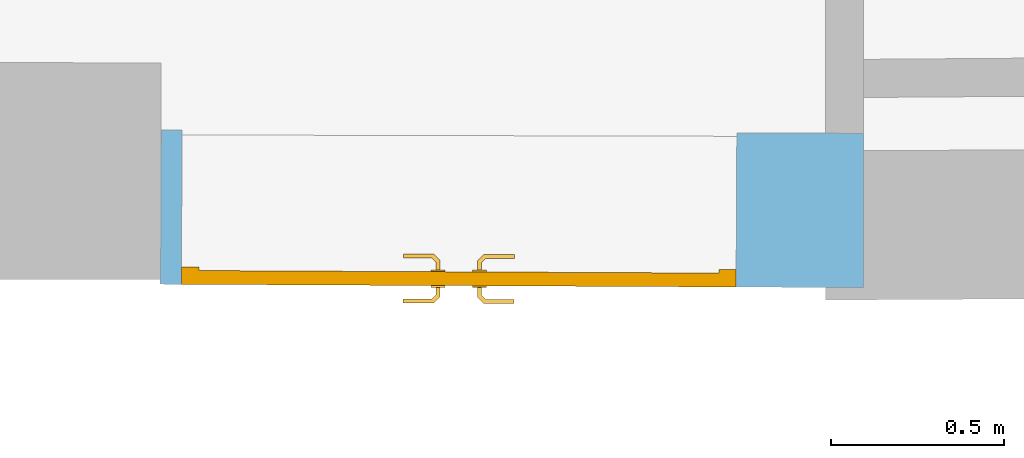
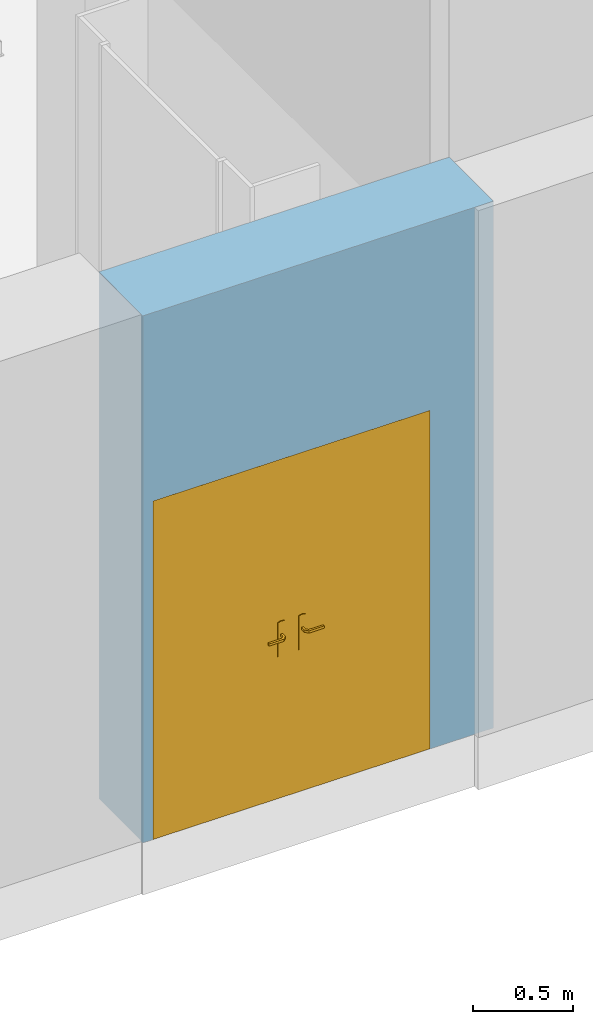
# One storey, part 39 of 128: 1 door, 1 opening, plus 1 element that does not belong to this part.
"""IFC2X3 building model written with IfcOpenShell, lengths in metres."""

from ifc_helpers import new_model, entity, si_unit, converted_unit, derived_unit, direction, frame, frame_2d, origin, place, context, subcontext, project, spatial, polyline, rectangle, outline, extrude, faceted_brep, source, transform, mapped, material, layer, layer_set, layer_usage, type_object, type_shapes, element, fill, save


model = new_model("IFC2X3")

# Units and contexts
model_context = context("Model", 3, precision=1e-05, world=origin(), true_north=direction((6.123031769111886e-17, 1.0)))
body_context = subcontext(model_context, "Body", "Model", "MODEL_VIEW")
ifc_project = project(units=[si_unit("LENGTHUNIT", "METRE"), si_unit("AREAUNIT", "SQUARE_METRE"), converted_unit("PLANEANGLEUNIT", "DEGREE", entity("IfcPlaneAngleMeasure", 0.017453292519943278), si_unit("PLANEANGLEUNIT", "RADIAN"), dimensions=[0, 0, 0, 0, 0, 0, 0]), derived_unit("THERMALTRANSMITTANCEUNIT", [(si_unit("MASSUNIT", "GRAM", prefix="KILO"), 1), (si_unit("THERMODYNAMICTEMPERATUREUNIT", "KELVIN"), -1), (si_unit("TIMEUNIT", "SECOND"), -3)])], contexts=[model_context])

# Site, building, storey
site_placement = place(None, origin())
site = spatial("IfcSite", under=ifc_project, at=site_placement, Name="Default", CompositionType="ELEMENT")
building_placement = place(site_placement, origin())
building = spatial("IfcBuilding", under=site, at=building_placement, CompositionType="ELEMENT")
storey_placement = place(building_placement, origin())
storey = spatial("IfcBuildingStorey", under=building, at=storey_placement, Name="00_RDC CAF", CompositionType="ELEMENT", Elevation=2.4982504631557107e-13)

# Wall, opening, door
ifc_material_1 = material(Name="STR - Beton Mur")
ifc_layer = layer(ifc_material_1, 0.44499999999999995)
ifc_layer_set = layer_set([ifc_layer], Name="Mur de base:M_Ext_Beton_445mm")
ifc_layer_usage = layer_usage(ifc_layer_set, "AXIS2", "NEGATIVE", 0.22249999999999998)
wall_type = type_object("IfcWallType", Name="Mur de base:M_Ext_Beton_445mm", PredefinedType="STANDARD", material=ifc_layer_set)
wall_placement = place(storey_placement, frame((24.91211306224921, 126.21559617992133, 0.0), z_axis=(0.0, 0.0, 1.0), x_axis=(0.9999881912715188, -0.004859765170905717, 0.0)))
wall = element("IfcWallStandardCase", 1, at=wall_placement, inside=storey, type_object=wall_type, material=ifc_layer_usage, Name="Mur de base:M_Ext_Beton_445mm", ObjectType="Mur de base:M_Ext_Beton_445mm", context=body_context, shape_type="SweptSolid", body=[
    extrude(outline(polyline([(0.0, -0.2225000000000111), (1.9184730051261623, -0.22250000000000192), (2.0273677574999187, -0.222500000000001), (2.0254488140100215, 0.17235875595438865), (2.0252051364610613, 0.22249999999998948), (0.0, 0.2224999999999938), (0.0, -0.2225000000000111)])), origin(), (0.0, 0.0, 1.0), 3.2300000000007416),
])
opening_placement = place(wall_placement, frame((1.660000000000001, 0.2225000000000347, 0.0)))
opening = element("IfcOpeningElement", 2, at=opening_placement, cuts=wall, Name="P_Tunnel_Double:P_Int_Double_Pleine_1530x2040mm:1", ObjectType="Opening", context=body_context, shape_type="SweptSolid", body=[
    extrude(rectangle(XDim=2.07500000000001, YDim=1.5999999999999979, at=frame_2d((1.037500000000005, 0.7999999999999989), x_axis=(1.0, 0.0))), frame((0.0, 0.0, 0.0), z_axis=(0.0, -1.0, 0.0), x_axis=(0.0, 0.0, 1.0)), (0.0, 0.0, 1.0), 0.44499999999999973),
])
ifc_material_2 = material(Name="ARC - M.In - Blanc")
door_style = type_object("IfcDoorStyle", Name="P_Tunnel_Double:P_Int_Double_Pleine_1530x2040mm", ConstructionType="NOTDEFINED", OperationType="DOUBLE_DOOR_SINGLE_SWING", ParameterTakesPrecedence=False, Sizeable=False, material=ifc_material_2)
shared_shape = source(origin(), body_context, "Body", "Brep", [
    faceted_brep([(0.7279747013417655, 0.045000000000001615, 0.9922195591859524), (0.7320252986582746, 0.04500000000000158, 0.9922195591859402), (0.736000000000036, 0.04500000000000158, 0.9929999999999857), (0.736000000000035, 0.04500000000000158, 1.0069999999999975), (0.7320252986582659, 0.04500000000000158, 1.0077804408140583), (0.7279747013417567, 0.045000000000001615, 1.0077804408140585), (0.7239999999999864, 0.04500000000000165, 1.0069999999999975), (0.7239999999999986, 0.04500000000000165, 0.9930000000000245), (0.7239999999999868, 0.06748520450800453, 1.0069999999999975), (0.7239999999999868, 0.06748520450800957, 0.9930000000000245), (0.7279747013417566, 0.0691315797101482, 1.0077804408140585), (0.7320252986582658, 0.07080939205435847, 1.0077804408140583), (0.715838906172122, 0.08699578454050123, 1.0077804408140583), (0.7141610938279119, 0.08294518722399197, 1.0077804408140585), (0.7360000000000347, 0.07245576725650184, 1.0069999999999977), (0.7360000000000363, 0.07245576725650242, 0.9929999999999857), (0.7320252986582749, 0.07080939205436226, 0.9922195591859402), (0.7279747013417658, 0.06913157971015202, 0.9922195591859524), (0.7141610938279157, 0.08294518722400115, 0.9922195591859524), (0.7158389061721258, 0.08699578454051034, 0.9922195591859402), (0.7125147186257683, 0.07897048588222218, 1.0069999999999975), (0.7125147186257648, 0.07897048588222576, 0.9930000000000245), (0.7174852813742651, 0.09097048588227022, 1.0069999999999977), (0.7174852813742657, 0.09097048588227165, 0.9929999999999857), (0.6299542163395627, 0.08294518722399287, 1.0077804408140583), (0.6299542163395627, 0.08699578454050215, 1.007780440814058), (0.6299542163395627, 0.09097048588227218, 1.006999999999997), (0.6299542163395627, 0.09097048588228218, 0.9929999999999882), (0.6299542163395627, 0.0869957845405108, 0.99221955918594), (0.6299542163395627, 0.0829451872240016, 0.9922195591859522), (0.6299542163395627, 0.07897048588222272, 0.993000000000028), (0.6299542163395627, 0.07897048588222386, 1.0069999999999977), (0.6712344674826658, 0.07897048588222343, 1.0069999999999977), (0.6712344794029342, 0.07897048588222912, 0.9930000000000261), (0.6720576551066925, 0.08497048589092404, 1.0078786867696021), (0.6775547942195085, 0.09097048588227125, 1.0069999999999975), (0.6775547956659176, 0.09097048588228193, 0.9929999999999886), (0.6720576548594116, 0.08497048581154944, 0.9921213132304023)], [[[0, 1, 2, 3, 4, 5, 6, 7]], [[8, 9, 7, 6]], [[5, 10, 8, 6]], [[5, 4, 11, 12, 13, 10]], [[3, 14, 11, 4]], [[14, 3, 2, 15]], [[2, 1, 16, 15]], [[1, 0, 17, 18, 19, 16]], [[0, 7, 9, 17]], [[20, 21, 9, 8]], [[8, 10, 13, 20]], [[14, 22, 12, 11]], [[23, 22, 14, 15]], [[15, 16, 19, 23]], [[17, 9, 21, 18]], [[24, 25, 26, 27, 28, 29, 30, 31]], [[21, 20, 32, 31, 30, 33]], [[34, 24, 32]], [[25, 34, 35]], [[13, 32, 20]], [[24, 31, 32]], [[25, 35, 26]], [[35, 12, 22]], [[34, 12, 35]], [[34, 13, 12]], [[34, 32, 13]], [[24, 34, 25]], [[22, 23, 36, 27, 26, 35]], [[37, 28, 36]], [[36, 28, 27]], [[36, 23, 19]], [[18, 33, 37]], [[33, 18, 21]], [[30, 29, 33]], [[37, 29, 28]], [[37, 33, 29]], [[37, 36, 19]], [[18, 37, 19]]]),
    faceted_brep([(0.7279747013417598, -0.004999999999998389, 1.0077804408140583), (0.732025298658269, -0.004999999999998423, 1.0077804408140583), (0.7360000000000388, -0.004999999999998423, 1.0069999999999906), (0.7360000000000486, -0.004999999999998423, 0.9929999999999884), (0.7320252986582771, -0.004999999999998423, 0.9922195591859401), (0.727974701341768, -0.004999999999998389, 0.9922195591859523), (0.7239999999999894, -0.004999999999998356, 0.9930000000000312), (0.7239999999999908, -0.004999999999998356, 1.006999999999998), (0.732025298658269, -0.031004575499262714, 1.0077804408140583), (0.7360000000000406, -0.03265095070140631, 1.0069999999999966), (0.7279747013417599, -0.0293267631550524, 1.0077804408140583), (0.7142986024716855, -0.043002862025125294, 1.0077804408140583), (0.7159764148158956, -0.04705345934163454, 1.0077804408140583), (0.7239999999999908, -0.02768038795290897, 1.006999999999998), (0.7239999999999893, -0.027680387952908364, 0.9930000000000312), (0.7279747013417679, -0.029326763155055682, 0.9922195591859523), (0.732025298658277, -0.03100457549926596, 0.9922195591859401), (0.715976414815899, -0.04705345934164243, 0.9922195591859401), (0.714298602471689, -0.04300286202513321, 0.9922195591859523), (0.7360000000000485, -0.03265095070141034, 0.9929999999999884), (0.7176227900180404, -0.05102816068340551, 1.0069999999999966), (0.7126522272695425, -0.03902816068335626, 1.006999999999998), (0.7126522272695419, -0.0390281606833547, 0.9930000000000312), (0.7176227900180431, -0.05102816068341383, 0.9929999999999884), (0.6299813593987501, -0.05102816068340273, 1.0069999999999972), (0.6299813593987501, -0.04705345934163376, 1.0077804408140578), (0.6299813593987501, -0.043002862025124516, 1.007780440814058), (0.6299813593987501, -0.03902816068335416, 1.0069999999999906), (0.6299813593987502, -0.039028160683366, 0.9930000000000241), (0.6299813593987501, -0.043002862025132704, 0.992219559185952), (0.6299813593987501, -0.04705345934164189, 0.9922195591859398), (0.6299813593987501, -0.051028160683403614, 0.9929999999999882), (0.6721399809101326, -0.04502816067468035, 1.007878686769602), (0.677692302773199, -0.05102816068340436, 1.0069999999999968), (0.6713167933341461, -0.039028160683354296, 1.0069999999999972), (0.6713167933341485, -0.03902816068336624, 0.9930000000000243), (0.6721399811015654, -0.045028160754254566, 0.9921213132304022), (0.6776923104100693, -0.05102816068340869, 0.9929999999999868)], [[[0, 1, 2, 3, 4, 5, 6, 7]], [[2, 1, 8, 9]], [[1, 0, 10, 11, 12, 8]], [[0, 7, 13, 10]], [[14, 13, 7, 6]], [[5, 15, 14, 6]], [[5, 4, 16, 17, 18, 15]], [[3, 19, 16, 4]], [[9, 19, 3, 2]], [[9, 8, 12, 20]], [[10, 13, 21, 11]], [[22, 21, 13, 14]], [[14, 15, 18, 22]], [[16, 19, 23, 17]], [[20, 23, 19, 9]], [[24, 25, 26, 27, 28, 29, 30, 31]], [[32, 25, 33]], [[33, 25, 24]], [[33, 20, 12]], [[11, 34, 32]], [[34, 11, 21]], [[27, 26, 34]], [[32, 26, 25]], [[32, 34, 26]], [[32, 33, 12]], [[11, 32, 12]], [[21, 22, 35, 28, 27, 34]], [[36, 29, 35]], [[30, 36, 37]], [[18, 35, 22]], [[29, 28, 35]], [[30, 37, 31]], [[37, 17, 23]], [[36, 17, 37]], [[36, 18, 17]], [[36, 35, 18]], [[29, 36, 30]], [[23, 20, 33, 24, 31, 37]]]),
    faceted_brep([(0.7500000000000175, 0.04000000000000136, 0.870000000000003), (0.7500000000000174, 0.04000000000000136, 1.0800000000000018), (0.7403527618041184, 0.040000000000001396, 1.0839960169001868), (0.7300000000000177, 0.04000000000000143, 1.0853589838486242), (0.7196472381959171, 0.040000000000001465, 1.083996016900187), (0.7100000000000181, 0.0400000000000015, 1.0800000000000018), (0.7100000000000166, 0.0400000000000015, 0.8700000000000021), (0.7196472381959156, 0.040000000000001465, 0.866003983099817), (0.7300000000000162, 0.04000000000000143, 0.8646410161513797), (0.7403527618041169, 0.040000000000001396, 0.8660039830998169), (0.7300000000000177, 0.04500000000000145, 1.0853589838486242), (0.7403527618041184, 0.045000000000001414, 1.0839960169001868), (0.7500000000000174, 0.04500000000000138, 1.0800000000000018), (0.750000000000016, 0.04500000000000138, 0.8700000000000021), (0.7403527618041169, 0.045000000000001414, 0.8660039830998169), (0.7300000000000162, 0.04500000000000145, 0.8646410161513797), (0.7196472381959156, 0.045000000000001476, 0.866003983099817), (0.7100000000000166, 0.04500000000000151, 0.8700000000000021), (0.7100000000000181, 0.04500000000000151, 1.0800000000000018), (0.7196472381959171, 0.045000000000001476, 1.083996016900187)], [[[0, 1, 2, 3, 4, 5, 6, 7, 8, 9]], [[10, 11, 12, 13, 14, 15, 16, 17, 18, 19]], [[4, 19, 18, 5]], [[3, 10, 19, 4]], [[2, 11, 10, 3]], [[2, 1, 12, 11]], [[13, 12, 1, 0]], [[9, 14, 13, 0]], [[8, 15, 14, 9]], [[7, 16, 15, 8]], [[7, 6, 17, 16]], [[17, 6, 5, 18]]]),
    faceted_brep([(0.7500000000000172, -0.004999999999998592, 0.8700000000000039), (0.750000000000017, -0.004999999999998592, 1.0800000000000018), (0.740352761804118, -0.0049999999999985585, 1.083996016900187), (0.7300000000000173, -0.004999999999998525, 1.0853589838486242), (0.7196472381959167, -0.004999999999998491, 1.0839960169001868), (0.7100000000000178, -0.004999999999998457, 1.0800000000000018), (0.7100000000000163, -0.004999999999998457, 0.8700000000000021), (0.7196472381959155, -0.004999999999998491, 0.866003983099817), (0.7300000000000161, -0.004999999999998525, 0.8646410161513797), (0.7403527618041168, -0.0049999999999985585, 0.866003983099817), (0.750000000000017, 0.0, 1.0800000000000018), (0.7500000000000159, 0.0, 0.8700000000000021), (0.7403527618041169, 0.0, 0.866003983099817), (0.7300000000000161, 0.0, 0.8646410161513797), (0.7196472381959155, 0.0, 0.866003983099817), (0.7100000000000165, 0.0, 0.8700000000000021), (0.7100000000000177, 0.0, 1.0800000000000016), (0.7196472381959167, 0.0, 1.0839960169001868), (0.7300000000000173, 0.0, 1.0853589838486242), (0.740352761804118, 0.0, 1.083996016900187)], [[[0, 1, 2, 3, 4, 5, 6, 7, 8, 9]], [[10, 11, 12, 13, 14, 15, 16, 17, 18, 19]], [[9, 12, 11, 0]], [[8, 13, 12, 9]], [[7, 14, 13, 8]], [[7, 6, 15, 14]], [[15, 6, 5, 16]], [[4, 17, 16, 5]], [[3, 18, 17, 4]], [[2, 19, 18, 3]], [[2, 1, 10, 19]], [[11, 10, 1, 0]]]),
    faceted_brep([(0.7900000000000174, 0.04000000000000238, 2.04), (0.7900000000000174, 0.04000000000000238, 0.0), (0.025000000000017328, 0.040000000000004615, 0.0), (0.025000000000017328, 0.040000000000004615, 2.04), (0.7900000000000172, 0.0, 2.04), (0.025000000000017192, 0.0, 2.04), (0.025000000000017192, 0.0, 0.0), (0.7900000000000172, 0.0, 0.0)], [[[0, 1, 2, 3]], [[4, 5, 6, 7]], [[3, 5, 4, 0]], [[2, 6, 5, 3]], [[1, 7, 6, 2]], [[0, 4, 7, 1]]]),
    faceted_brep([(0.8479747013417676, 0.04500000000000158, 1.0077804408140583), (0.8439999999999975, 0.04500000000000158, 1.0069999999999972), (0.8439999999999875, 0.04500000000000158, 0.9929999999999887), (0.8479747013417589, 0.04500000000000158, 0.9922195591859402), (0.852025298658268, 0.045000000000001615, 0.9922195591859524), (0.856000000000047, 0.04500000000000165, 0.9930000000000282), (0.8560000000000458, 0.04500000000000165, 1.006999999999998), (0.8520252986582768, 0.045000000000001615, 1.0077804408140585), (0.8560000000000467, 0.06748520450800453, 0.9930000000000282), (0.8560000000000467, 0.067485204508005, 1.006999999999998), (0.852025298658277, 0.0691315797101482, 1.0077804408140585), (0.8658389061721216, 0.08294518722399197, 1.0077804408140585), (0.8641610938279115, 0.08699578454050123, 1.0077804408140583), (0.8479747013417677, 0.07080939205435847, 1.0077804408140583), (0.8439999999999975, 0.07245576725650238, 1.0069999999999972), (0.8439999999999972, 0.07245576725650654, 0.9929999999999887), (0.8479747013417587, 0.07080939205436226, 0.9922195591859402), (0.8641610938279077, 0.08699578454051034, 0.9922195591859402), (0.8658389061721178, 0.08294518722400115, 0.9922195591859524), (0.8520252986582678, 0.06913157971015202, 0.9922195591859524), (0.8674852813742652, 0.0789704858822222, 0.9930000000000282), (0.8674852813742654, 0.07897048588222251, 1.006999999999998), (0.8625147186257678, 0.09097048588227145, 1.0069999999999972), (0.8625147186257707, 0.09097048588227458, 0.9929999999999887), (0.9500457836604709, 0.0789704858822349, 0.9930000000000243), (0.9500457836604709, 0.0829451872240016, 0.9922195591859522), (0.9500457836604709, 0.0869957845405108, 0.99221955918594), (0.9500457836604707, 0.0909704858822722, 0.9929999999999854), (0.9500457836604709, 0.09097048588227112, 1.0069999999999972), (0.9500457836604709, 0.08699578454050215, 1.007780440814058), (0.9500457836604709, 0.08294518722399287, 1.0077804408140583), (0.9500457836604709, 0.07897048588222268, 1.0069999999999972), (0.908765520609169, 0.07897048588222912, 0.9930000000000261), (0.9087655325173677, 0.07897048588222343, 1.0069999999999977), (0.907942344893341, 0.08497048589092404, 1.0078786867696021), (0.9024452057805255, 0.09097048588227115, 1.0069999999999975), (0.9024452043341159, 0.09097048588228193, 0.9929999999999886), (0.9079423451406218, 0.08497048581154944, 0.9921213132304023)], [[[0, 1, 2, 3, 4, 5, 6, 7]], [[6, 5, 8, 9]], [[9, 10, 7, 6]], [[10, 11, 12, 13, 0, 7]], [[13, 14, 1, 0]], [[2, 1, 14, 15]], [[15, 16, 3, 2]], [[16, 17, 18, 19, 4, 3]], [[19, 8, 5, 4]], [[9, 8, 20, 21]], [[21, 11, 10, 9]], [[12, 22, 14, 13]], [[15, 14, 22, 23]], [[23, 17, 16, 15]], [[18, 20, 8, 19]], [[24, 25, 26, 27, 28, 29, 30, 31]], [[21, 20, 32, 24, 31, 33]], [[33, 30, 34]], [[35, 34, 29]], [[21, 33, 11]], [[33, 31, 30]], [[28, 35, 29]], [[22, 12, 35]], [[35, 12, 34]], [[12, 11, 34]], [[11, 33, 34]], [[29, 34, 30]], [[22, 35, 28, 27, 36, 23]], [[36, 26, 37]], [[27, 26, 36]], [[17, 23, 36]], [[37, 32, 18]], [[20, 18, 32]], [[32, 25, 24]], [[26, 25, 37]], [[25, 32, 37]], [[17, 36, 37]], [[17, 37, 18]]]),
    faceted_brep([(0.8479747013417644, -0.004999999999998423, 1.0077804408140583), (0.8520252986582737, -0.004999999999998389, 1.0077804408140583), (0.8560000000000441, -0.004999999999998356, 1.006999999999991), (0.8560000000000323, -0.004999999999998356, 0.9930000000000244), (0.8520252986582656, -0.004999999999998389, 0.9922195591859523), (0.8479747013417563, -0.004999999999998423, 0.9922195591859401), (0.8439999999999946, -0.004999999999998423, 0.9929999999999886), (0.8439999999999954, -0.004999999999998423, 1.0069999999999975), (0.8439999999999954, -0.03265095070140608, 1.0069999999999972), (0.8479747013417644, -0.031004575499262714, 1.0077804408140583), (0.8640235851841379, -0.04705345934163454, 1.0077804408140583), (0.865701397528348, -0.043002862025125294, 1.0077804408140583), (0.8520252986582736, -0.0293267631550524, 1.0077804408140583), (0.856000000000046, -0.02768038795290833, 1.0069999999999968), (0.8560000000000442, -0.027680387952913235, 0.9930000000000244), (0.8520252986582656, -0.029326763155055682, 0.9922195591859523), (0.8657013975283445, -0.04300286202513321, 0.9922195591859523), (0.8640235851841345, -0.04705345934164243, 0.9922195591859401), (0.8479747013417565, -0.03100457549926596, 0.9922195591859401), (0.8439999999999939, -0.03265095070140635, 0.9929999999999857), (0.8623772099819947, -0.05102816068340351, 1.0069999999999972), (0.8673477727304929, -0.03902816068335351, 1.0069999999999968), (0.867347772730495, -0.039028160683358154, 0.9930000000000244), (0.8623772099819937, -0.05102816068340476, 0.9929999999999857), (0.9500186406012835, -0.05102816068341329, 0.9929999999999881), (0.9500186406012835, -0.04705345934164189, 0.9922195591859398), (0.9500186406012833, -0.043002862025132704, 0.992219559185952), (0.9500186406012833, -0.03902816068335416, 0.9930000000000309), (0.9500186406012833, -0.03902816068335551, 1.0069999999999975), (0.9500186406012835, -0.043002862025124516, 1.007780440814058), (0.9500186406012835, -0.04705345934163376, 1.0077804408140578), (0.9500186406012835, -0.05102816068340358, 1.0069999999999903), (0.902307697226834, -0.05102816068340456, 1.0069999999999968), (0.9078600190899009, -0.04502816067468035, 1.007878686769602), (0.9086832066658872, -0.039028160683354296, 1.0069999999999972), (0.908683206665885, -0.03902816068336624, 0.9930000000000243), (0.9078600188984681, -0.045028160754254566, 0.9921213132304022), (0.9023077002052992, -0.0510281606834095, 0.992999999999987)], [[[0, 1, 2, 3, 4, 5, 6, 7]], [[8, 9, 0, 7]], [[9, 10, 11, 12, 1, 0]], [[12, 13, 2, 1]], [[3, 2, 13, 14]], [[14, 15, 4, 3]], [[15, 16, 17, 18, 5, 4]], [[18, 19, 6, 5]], [[7, 6, 19, 8]], [[20, 10, 9, 8]], [[11, 21, 13, 12]], [[14, 13, 21, 22]], [[22, 16, 15, 14]], [[17, 23, 19, 18]], [[8, 19, 23, 20]], [[24, 25, 26, 27, 28, 29, 30, 31]], [[32, 30, 33]], [[31, 30, 32]], [[10, 20, 32]], [[33, 34, 11]], [[21, 11, 34]], [[34, 29, 28]], [[30, 29, 33]], [[29, 34, 33]], [[10, 32, 33]], [[10, 33, 11]], [[22, 21, 34, 28, 27, 35]], [[35, 26, 36]], [[37, 36, 25]], [[22, 35, 16]], [[35, 27, 26]], [[24, 37, 25]], [[23, 17, 37]], [[37, 17, 36]], [[17, 16, 36]], [[16, 35, 36]], [[25, 36, 26]], [[20, 23, 37, 24, 31, 32]]]),
    faceted_brep([(0.8603527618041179, 0.040000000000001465, 0.866003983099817), (0.8700000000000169, 0.0400000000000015, 0.8700000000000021), (0.8700000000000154, 0.0400000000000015, 1.0800000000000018), (0.8603527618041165, 0.040000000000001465, 1.083996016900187), (0.8500000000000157, 0.04000000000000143, 1.0853589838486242), (0.8396472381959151, 0.040000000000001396, 1.0839960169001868), (0.8300000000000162, 0.04000000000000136, 1.0800000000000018), (0.8300000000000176, 0.04000000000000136, 0.8700000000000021), (0.8396472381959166, 0.040000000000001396, 0.8660039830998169), (0.8500000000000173, 0.04000000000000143, 0.8646410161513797), (0.8603527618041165, 0.045000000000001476, 1.083996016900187), (0.8700000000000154, 0.04500000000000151, 1.0800000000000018), (0.8700000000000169, 0.04500000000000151, 0.8700000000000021), (0.8603527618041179, 0.045000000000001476, 0.866003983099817), (0.8500000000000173, 0.04500000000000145, 0.8646410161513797), (0.8396472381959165, 0.045000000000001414, 0.8660039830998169), (0.830000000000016, 0.04500000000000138, 0.870000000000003), (0.8300000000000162, 0.04500000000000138, 1.0800000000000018), (0.8396472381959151, 0.045000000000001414, 1.0839960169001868), (0.8500000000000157, 0.04500000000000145, 1.0853589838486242)], [[[0, 1, 2, 3, 4, 5, 6, 7, 8, 9]], [[10, 11, 12, 13, 14, 15, 16, 17, 18, 19]], [[11, 10, 3, 2]], [[3, 10, 19, 4]], [[19, 18, 5, 4]], [[18, 17, 6, 5]], [[7, 6, 17, 16]], [[16, 15, 8, 7]], [[8, 15, 14, 9]], [[14, 13, 0, 9]], [[13, 12, 1, 0]], [[2, 1, 12, 11]]]),
    faceted_brep([(0.860352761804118, -0.004999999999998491, 0.866003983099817), (0.8700000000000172, -0.004999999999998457, 0.8700000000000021), (0.8700000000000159, -0.004999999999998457, 1.0800000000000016), (0.8603527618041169, -0.004999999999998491, 1.0839960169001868), (0.8500000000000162, -0.004999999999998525, 1.0853589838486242), (0.8396472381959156, -0.0049999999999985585, 1.083996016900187), (0.8300000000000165, -0.004999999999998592, 1.0800000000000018), (0.8300000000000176, -0.004999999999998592, 0.8700000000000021), (0.8396472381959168, -0.0049999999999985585, 0.866003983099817), (0.8500000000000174, -0.004999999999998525, 0.8646410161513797), (0.8603527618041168, 0.0, 1.0839960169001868), (0.8700000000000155, 0.0, 1.0800000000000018), (0.8700000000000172, 0.0, 0.8700000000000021), (0.860352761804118, 0.0, 0.866003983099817), (0.8500000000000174, 0.0, 0.8646410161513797), (0.8396472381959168, 0.0, 0.866003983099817), (0.8300000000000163, 0.0, 0.8700000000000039), (0.8300000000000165, 0.0, 1.0800000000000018), (0.8396472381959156, 0.0, 1.083996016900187), (0.8500000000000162, 0.0, 1.0853589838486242)], [[[0, 1, 2, 3, 4, 5, 6, 7, 8, 9]], [[10, 11, 12, 13, 14, 15, 16, 17, 18, 19]], [[16, 15, 8, 7]], [[8, 15, 14, 9]], [[14, 13, 0, 9]], [[13, 12, 1, 0]], [[2, 1, 12, 11]], [[11, 10, 3, 2]], [[3, 10, 19, 4]], [[19, 18, 5, 4]], [[18, 17, 6, 5]], [[7, 6, 17, 16]]]),
    faceted_brep([(0.7900000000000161, 0.04000000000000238, 2.04), (1.5550000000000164, 0.040000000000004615, 2.04), (1.5550000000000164, 0.040000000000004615, 0.0), (0.7900000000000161, 0.04000000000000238, 0.0), (0.7900000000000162, 0.0, 2.04), (0.7900000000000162, 0.0, 0.0), (1.5550000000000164, 0.0, 0.0), (1.5550000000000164, 0.0, 2.04)], [[[0, 1, 2, 3]], [[4, 5, 6, 7]], [[1, 0, 4, 7]], [[2, 1, 7, 6]], [[3, 2, 6, 5]], [[0, 3, 5, 4]]]),
    faceted_brep([(1.5900000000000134, 0.05000000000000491, 0.0), (1.5900000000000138, 0.0, 0.0), (1.5550000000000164, 0.0, 0.0), (1.5550000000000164, 0.040000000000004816, 0.0), (1.540000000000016, 0.04000000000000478, 0.0), (1.540000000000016, 0.05000000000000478, 0.0), (1.540000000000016, 0.05000000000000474, 2.0250000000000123), (0.04000000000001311, 0.04999999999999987, 2.0250000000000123), (0.04000000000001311, 0.04999999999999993, 0.0), (-0.009999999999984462, 0.05000000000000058, 0.0), (-0.009999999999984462, 0.05000000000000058, 2.07500000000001), (1.5900000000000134, 0.05000000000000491, 2.07500000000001), (1.540000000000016, 0.04000000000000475, 2.0250000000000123), (1.5550000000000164, 0.04000000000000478, 2.040000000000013), (0.025000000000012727, 0.03999999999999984, 2.040000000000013), (0.025000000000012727, 0.03999999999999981, 0.0), (0.04000000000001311, 0.040000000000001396, 0.0), (0.04000000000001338, 0.040000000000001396, 2.0250000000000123), (1.5550000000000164, 0.0, 2.040000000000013), (1.5900000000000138, 0.0, 2.07500000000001), (-0.009999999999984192, 0.0, 2.07500000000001), (-0.009999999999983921, 0.0, 0.0), (0.025000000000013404, 0.0, 0.0), (0.025000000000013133, 0.0, 2.0400000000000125)], [[[0, 1, 2, 3, 4, 5]], [[5, 6, 7, 8, 9, 10, 11, 0]], [[4, 12, 6, 5]], [[3, 13, 14, 15, 16, 17, 12, 4]], [[2, 18, 13, 3]], [[1, 19, 20, 21, 22, 23, 18, 2]], [[0, 11, 19, 1]], [[10, 9, 21, 20]], [[9, 8, 16, 15, 22, 21]], [[17, 16, 8, 7]], [[23, 22, 15, 14]], [[12, 17, 7, 6]], [[18, 23, 14, 13]], [[11, 10, 20, 19]]]),
])
type_shapes(door_style, [shared_shape])
door_placement = place(opening_placement, frame((-1.5900000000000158, -0.4450000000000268, 0.0)))
door = element("IfcDoor", 3, at=door_placement, inside=storey, type_object=door_style, material=ifc_material_2, Name="P_Tunnel_Double:P_Int_Double_Pleine_1530x2040mm", ObjectType="P_Tunnel_Double:P_Int_Double_Pleine_1530x2040mm", OverallHeight=2.07500000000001, OverallWidth=1.5999999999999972, context=body_context, shape_type="MappedRepresentation", body=[
    mapped(shared_shape, transform((0.0, 0.0, 0.0), scale=1.0)),
])
fill(opening, door)

save(model, "model.ifc")
